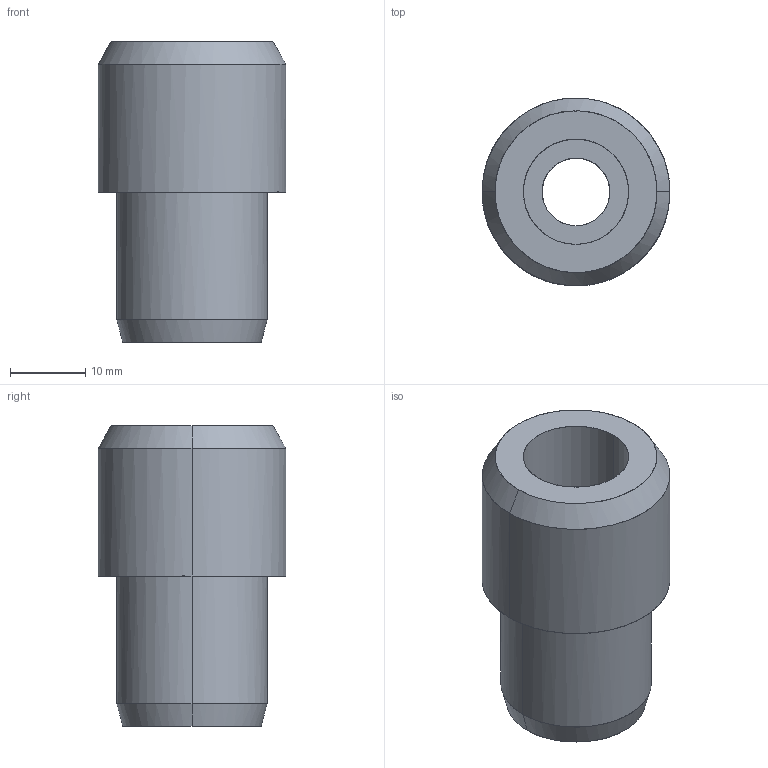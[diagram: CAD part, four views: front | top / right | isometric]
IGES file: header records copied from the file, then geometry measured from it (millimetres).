
Global section: file name: E:\UnigraphicsGraphicData\MISUMI_PRESS-PARTS\IGES\3d_lpl20_07121_r00.igs; native system: NX V5.0; preprocessor: UGS NX IGES V5.0; author: MISUMI; date: 20110105.161224; units: millimetre
Bounding box: 25 x 25 x 40 mm (x, y, z)
Surface area: 4829.3 mm2 (no closed solid volume)
Topology: 0 solids, 0 shells, 16 faces, 112 edges, 112 vertices
Faces by surface type: bspline 16
